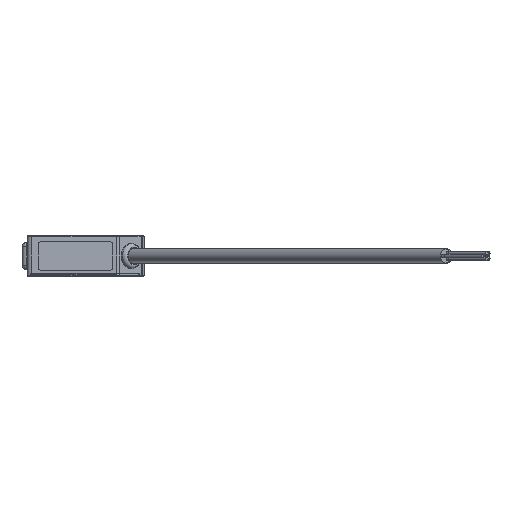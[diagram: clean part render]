
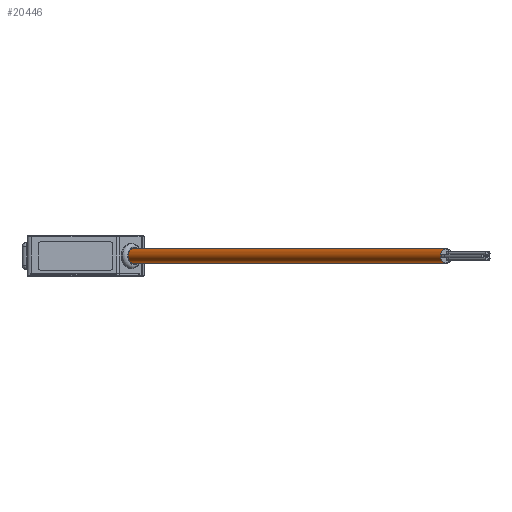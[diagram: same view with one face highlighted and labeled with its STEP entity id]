
A CAD part, left-side view. The second image highlights one B-rep face of the part: STEP entity #20446.
In plain terms, the highlighted cylindrical face has radius 1.9 mm (diameter 3.8 mm), a full revolution.
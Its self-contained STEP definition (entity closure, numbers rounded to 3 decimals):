
#4549=CYLINDRICAL_SURFACE('',#22879,1.9);
#4827=FACE_BOUND('',#6813,.T.);
#5676=FACE_OUTER_BOUND('',#6812,.T.);
#6812=EDGE_LOOP('',(#18812));
#6813=EDGE_LOOP('',(#18813));
#7780=CIRCLE('',#22122,1.9);
#8307=CIRCLE('',#22880,1.9);
#9662=VERTEX_POINT('',#46715);
#10416=VERTEX_POINT('',#55607);
#12262=EDGE_CURVE('',#9662,#9662,#7780,.T.);
#13275=EDGE_CURVE('',#10416,#10416,#8307,.T.);
#18812=ORIENTED_EDGE('',*,*,#12262,.T.);
#18813=ORIENTED_EDGE('',*,*,#13275,.F.);
#20446=ADVANCED_FACE('',(#5676,#4827),#4549,.T.);
#22122=AXIS2_PLACEMENT_3D('',#46716,#26881,#26882);
#22879=AXIS2_PLACEMENT_3D('',#55606,#28852,#28853);
#22880=AXIS2_PLACEMENT_3D('',#55608,#28854,#28855);
#26881=DIRECTION('center_axis',(0.707,-0.707,0.));
#26882=DIRECTION('ref_axis',(0.707,0.707,0.));
#28852=DIRECTION('center_axis',(0.707,-0.707,0.));
#28853=DIRECTION('ref_axis',(0.707,0.707,0.));
#28854=DIRECTION('center_axis',(0.707,-0.707,0.));
#28855=DIRECTION('ref_axis',(-0.707,-0.707,0.));
#46715=CARTESIAN_POINT('',(34.134,54.519,20.));
#46716=CARTESIAN_POINT('Origin',(35.477,55.862,20.));
#55606=CARTESIAN_POINT('Origin',(36.75,54.59,20.));
#55607=CARTESIAN_POINT('',(120.259,-31.607,20.));
#55608=CARTESIAN_POINT('Origin',(121.603,-30.263,20.));
